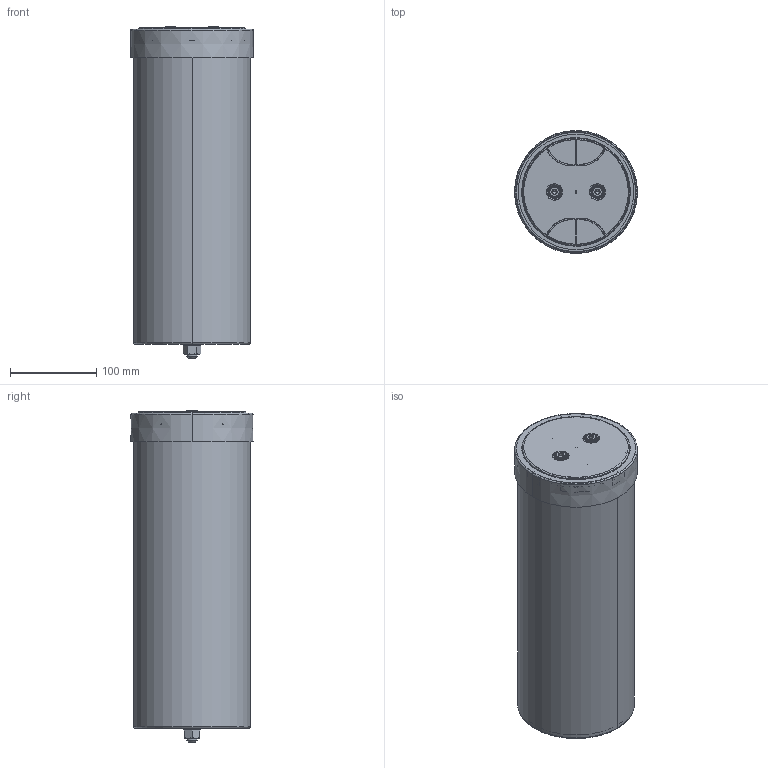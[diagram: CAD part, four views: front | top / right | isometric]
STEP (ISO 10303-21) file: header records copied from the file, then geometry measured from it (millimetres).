
FILE_DESCRIPTION (( 'STEP AP203' ), '1' );
FILE_NAME ('B25680Cx_136x368_370.STEP', '2021-09-30T08:50:21', ( '' ), ( '' ), 'SwSTEP 2.0', 'SolidWorks 2017', '' );
FILE_SCHEMA (( 'CONFIG_CONTROL_DESIGN' ));
Length unit declared in the file: millimetre
Products named in the file (1): B25680Cx_136x368_370
Bounding box: 143.08 x 143.08 x 386 mm (x, y, z)
Volume: 269974.1 mm3; surface area: 456141.2 mm2
Topology: 1 solids, 8 shells, 696 faces, 1792 edges, 1125 vertices
Faces by surface type: plane 219, cylinder 183, bspline 160, cone 102, torus 32
Entity records: 27764 total; most frequent: CARTESIAN_POINT 11680, ORIENTED_EDGE 3556, DIRECTION 3173, EDGE_CURVE 1778, AXIS2_PLACEMENT_3D 1302, VERTEX_POINT 1125, CIRCLE 765, EDGE_LOOP 755
